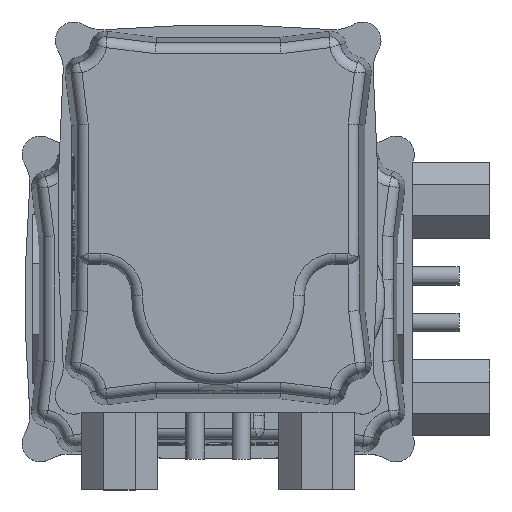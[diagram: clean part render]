
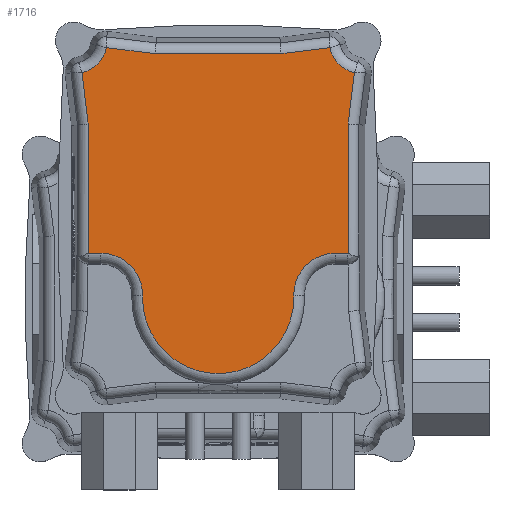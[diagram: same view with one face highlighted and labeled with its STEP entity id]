
A CAD part, top view. The second image highlights one B-rep face of the part: STEP entity #1716.
In plain terms, the highlighted planar face has unit normal (0, 0, 1).
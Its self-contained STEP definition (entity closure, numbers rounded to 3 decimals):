
#1716 = ADVANCED_FACE( '', ( #3703 ), #3704, .T. );
#3703 = FACE_OUTER_BOUND( '', #10959, .T. );
#3704 = PLANE( '', #10960 );
#10959 = EDGE_LOOP( '', ( #17060, #17061, #17062, #17063, #17064, #17065, #17066, #17067, #17068, #17069, #17070, #17071, #17072, #17073, #17074, #17075 ) );
#10960 = AXIS2_PLACEMENT_3D( '', #17076, #17077, #17078 );
#17060 = ORIENTED_EDGE( '', *, *, #18475, .T. );
#17061 = ORIENTED_EDGE( '', *, *, #20017, .T. );
#17062 = ORIENTED_EDGE( '', *, *, #20466, .T. );
#17063 = ORIENTED_EDGE( '', *, *, #18963, .T. );
#17064 = ORIENTED_EDGE( '', *, *, #20467, .T. );
#17065 = ORIENTED_EDGE( '', *, *, #19140, .T. );
#17066 = ORIENTED_EDGE( '', *, *, #18933, .T. );
#17067 = ORIENTED_EDGE( '', *, *, #20468, .T. );
#17068 = ORIENTED_EDGE( '', *, *, #20469, .T. );
#17069 = ORIENTED_EDGE( '', *, *, #19567, .T. );
#17070 = ORIENTED_EDGE( '', *, *, #19909, .T. );
#17071 = ORIENTED_EDGE( '', *, *, #20105, .T. );
#17072 = ORIENTED_EDGE( '', *, *, #20470, .T. );
#17073 = ORIENTED_EDGE( '', *, *, #19937, .T. );
#17074 = ORIENTED_EDGE( '', *, *, #20471, .T. );
#17075 = ORIENTED_EDGE( '', *, *, #19334, .T. );
#17076 = CARTESIAN_POINT( '', ( 47.227, -44.578, 84. ) );
#17077 = DIRECTION( '', ( 0., 0., 1. ) );
#17078 = DIRECTION( '', ( 1., 0., 0. ) );
#18475 = EDGE_CURVE( '', #20717, #20722, #20724, .T. );
#18933 = EDGE_CURVE( '', #21534, #21532, #21535, .T. );
#18963 = EDGE_CURVE( '', #21583, #21581, #21584, .T. );
#19140 = EDGE_CURVE( '', #21883, #21534, #21884, .T. );
#19334 = EDGE_CURVE( '', #22172, #20717, #22176, .T. );
#19567 = EDGE_CURVE( '', #22532, #22534, #22536, .F. );
#19909 = EDGE_CURVE( '', #22534, #23039, #23041, .T. );
#19937 = EDGE_CURVE( '', #23079, #22077, #23081, .T. );
#20017 = EDGE_CURVE( '', #20722, #23180, #23182, .T. );
#20105 = EDGE_CURVE( '', #23039, #23290, #23292, .T. );
#20466 = EDGE_CURVE( '', #23180, #21583, #23740, .F. );
#20467 = EDGE_CURVE( '', #21581, #21883, #23741, .T. );
#20468 = EDGE_CURVE( '', #21532, #23742, #23743, .F. );
#20469 = EDGE_CURVE( '', #23742, #22532, #23744, .T. );
#20470 = EDGE_CURVE( '', #23290, #23079, #23745, .T. );
#20471 = EDGE_CURVE( '', #22077, #22172, #23746, .F. );
#20717 = VERTEX_POINT( '', #24000 );
#20722 = VERTEX_POINT( '', #24006 );
#20724 = LINE( '', #24008, #24009 );
#21532 = VERTEX_POINT( '', #26398 );
#21534 = VERTEX_POINT( '', #26400 );
#21535 = LINE( '', #26401, #26402 );
#21581 = VERTEX_POINT( '', #26559 );
#21583 = VERTEX_POINT( '', #26561 );
#21584 = LINE( '', #26562, #26563 );
#21883 = VERTEX_POINT( '', #27154 );
#21884 = CIRCLE( '', #27155, 0.5 );
#22077 = VERTEX_POINT( '', #27860 );
#22172 = VERTEX_POINT( '', #28254 );
#22176 = LINE( '', #28276, #28277 );
#22532 = VERTEX_POINT( '', #29087 );
#22534 = VERTEX_POINT( '', #29089 );
#22536 = CIRCLE( '', #29091, 13.5 );
#23039 = VERTEX_POINT( '', #30114 );
#23041 = LINE( '', #30116, #30117 );
#23079 = VERTEX_POINT( '', #30169 );
#23081 = LINE( '', #30171, #30172 );
#23180 = VERTEX_POINT( '', #30417 );
#23182 = LINE( '', #30436, #30437 );
#23290 = VERTEX_POINT( '', #30814 );
#23292 = CIRCLE( '', #30837, 0.5 );
#23740 = CIRCLE( '', #32416, 10.907 );
#23741 = LINE( '', #32417, #32418 );
#23742 = VERTEX_POINT( '', #32419 );
#23743 = CIRCLE( '', #32420, 13.5 );
#23744 = CIRCLE( '', #32421, 24.5 );
#23745 = LINE( '', #32422, #32423 );
#23746 = CIRCLE( '', #32424, 10.907 );
#24000 = CARTESIAN_POINT( '', ( -53.093, 20.331, 84. ) );
#24006 = CARTESIAN_POINT( '', ( -53.093, -20.331, 84. ) );
#24008 = CARTESIAN_POINT( '', ( -53.093, -44.578, 84. ) );
#24009 = VECTOR( '', #32917, 1000. );
#26398 = CARTESIAN_POINT( '', ( 11.5, -37.987, 84. ) );
#26400 = CARTESIAN_POINT( '', ( 11.5, -42., 84. ) );
#26401 = CARTESIAN_POINT( '', ( 11.5, -44.578, 84. ) );
#26402 = VECTOR( '', #33256, 1000. );
#26559 = CARTESIAN_POINT( '', ( -30.331, -42.093, 84. ) );
#26561 = CARTESIAN_POINT( '', ( -46.913, -44.129, 84. ) );
#26562 = CARTESIAN_POINT( '', ( 45.775, -32.749, 84. ) );
#26563 = VECTOR( '', #33291, 1000. );
#27154 = CARTESIAN_POINT( '', ( 11.491, -42.093, 84. ) );
#27155 = AXIS2_PLACEMENT_3D( '', #33480, #33481, #33482 );
#27860 = CARTESIAN_POINT( '', ( -46.913, 44.129, 84. ) );
#28254 = CARTESIAN_POINT( '', ( -55.033, 36.126, 84. ) );
#28276 = CARTESIAN_POINT( '', ( -43.752, -55.749, 84. ) );
#28277 = VECTOR( '', #33615, 1000. );
#29087 = CARTESIAN_POINT( '', ( 25.355, 24.492, 84. ) );
#29089 = CARTESIAN_POINT( '', ( 11.5, 37.987, 84. ) );
#29091 = AXIS2_PLACEMENT_3D( '', #33802, #33803, #33804 );
#30114 = CARTESIAN_POINT( '', ( 11.5, 42., 84. ) );
#30116 = CARTESIAN_POINT( '', ( 11.5, -44.578, 84. ) );
#30117 = VECTOR( '', #34154, 1000. );
#30169 = CARTESIAN_POINT( '', ( -30.331, 42.093, 84. ) );
#30171 = CARTESIAN_POINT( '', ( 56.559, 31.425, 84. ) );
#30172 = VECTOR( '', #34181, 1000. );
#30417 = CARTESIAN_POINT( '', ( -55.033, -36.126, 84. ) );
#30436 = CARTESIAN_POINT( '', ( -54.536, -32.083, 84. ) );
#30437 = VECTOR( '', #34230, 1000. );
#30814 = CARTESIAN_POINT( '', ( 11.491, 42.093, 84. ) );
#30837 = AXIS2_PLACEMENT_3D( '', #34273, #34274, #34275 );
#32416 = AXIS2_PLACEMENT_3D( '', #34568, #34569, #34570 );
#32417 = CARTESIAN_POINT( '', ( 47.227, -42.093, 84. ) );
#32418 = VECTOR( '', #34571, 1000. );
#32419 = CARTESIAN_POINT( '', ( 25.355, -24.492, 84. ) );
#32420 = AXIS2_PLACEMENT_3D( '', #34572, #34573, #34574 );
#32421 = AXIS2_PLACEMENT_3D( '', #34575, #34576, #34577 );
#32422 = CARTESIAN_POINT( '', ( 47.227, 42.093, 84. ) );
#32423 = VECTOR( '', #34578, 1000. );
#32424 = AXIS2_PLACEMENT_3D( '', #34579, #34580, #34581 );
#32917 = DIRECTION( '', ( 0., -1., 0. ) );
#33256 = DIRECTION( '', ( 0., 1., 0. ) );
#33291 = DIRECTION( '', ( 0.993, 0.122, 0. ) );
#33480 = CARTESIAN_POINT( '', ( 11., -42., 84. ) );
#33481 = DIRECTION( '', ( 0., 0., 1. ) );
#33482 = DIRECTION( '', ( 1., 0., 0. ) );
#33615 = DIRECTION( '', ( 0.122, -0.993, 0. ) );
#33802 = CARTESIAN_POINT( '', ( 25., 37.987, 84. ) );
#33803 = DIRECTION( '', ( 0., 0., 1. ) );
#33804 = DIRECTION( '', ( 1., 0., 0. ) );
#34154 = DIRECTION( '', ( 0., 1., 0. ) );
#34181 = DIRECTION( '', ( -0.993, 0.122, 0. ) );
#34230 = DIRECTION( '', ( -0.122, -0.993, 0. ) );
#34273 = CARTESIAN_POINT( '', ( 11., 42., 84. ) );
#34274 = DIRECTION( '', ( 0., 0., 1. ) );
#34275 = DIRECTION( '', ( 1., 0., 0. ) );
#34568 = CARTESIAN_POINT( '', ( -57.5, -46.75, 84. ) );
#34569 = DIRECTION( '', ( 0., 0., 1. ) );
#34570 = DIRECTION( '', ( 1., 0., 0. ) );
#34571 = DIRECTION( '', ( 1., 0., 0. ) );
#34572 = CARTESIAN_POINT( '', ( 25., -37.987, 84. ) );
#34573 = DIRECTION( '', ( 0., 0., 1. ) );
#34574 = DIRECTION( '', ( 1., 0., 0. ) );
#34575 = CARTESIAN_POINT( '', ( 26., 0., 84. ) );
#34576 = DIRECTION( '', ( 0., 0., 1. ) );
#34577 = DIRECTION( '', ( 1., 0., 0. ) );
#34578 = DIRECTION( '', ( -1., 0., 0. ) );
#34579 = CARTESIAN_POINT( '', ( -57.5, 46.75, 84. ) );
#34580 = DIRECTION( '', ( 0., 0., 1. ) );
#34581 = DIRECTION( '', ( 1., 0., 0. ) );
